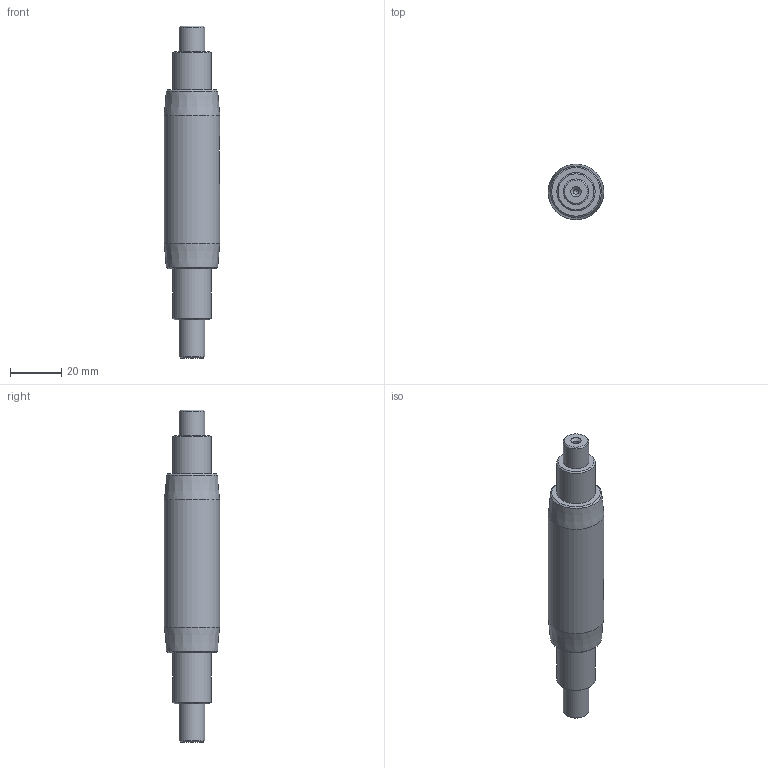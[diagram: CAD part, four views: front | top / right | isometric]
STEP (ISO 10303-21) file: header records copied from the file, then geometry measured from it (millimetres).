
FILE_DESCRIPTION(/* description */ ('Wałek','CAx-IF Rec.Pracs.---Representation and Presentation of Product Manufacturing Information (PMI)---4.0---2014-10-13'),/* implementation_level */ '2;1');
FILE_NAME(/* name */ 'C:\ZCAI_2018_KP\R5 Części\Widok\850-00-001.stp',/* time_stamp */ '2018-01-02T11:16:50+01:00',/* author */ ('ExpertBooks'),/* organization */ ('Fabian Stasiak CAD Consulting'),/* preprocessor_version */ 'ST-DEVELOPER v17',/* originating_system */ 'Autodesk Inventor 2018',/* authorisation */ '');
FILE_SCHEMA (('AP242_MANAGED_MODEL_BASED_3D_ENGINEERING_MIM_LF { 1 0 10303 442 1 1 4 }'));
Length unit declared in the file: millimetre
Products named in the file (1): 850-00-001
Bounding box: 21.75 x 21.75 x 130 mm (x, y, z)
Volume: 33253.3 mm3; surface area: 7851.1 mm2
Topology: 1 solids, 1 shells, 27 faces, 56 edges, 35 vertices
Faces by surface type: cone 10, plane 9, cylinder 8
Full cylindrical faces by diameter (mm): 2 x1, 10 x2, 15 x2, 21.75 x1
Entity records: 1534 total; most frequent: CARTESIAN_POINT 228, DIRECTION 185, COORDINATES_LIST 135, ORIENTED_EDGE 110, TESSELLATED_CURVE_SET 108, AXIS2_PLACEMENT_3D 82, EDGE_CURVE 55, TESSELLATED_ANNOTATION_OCCURRENCE 36
